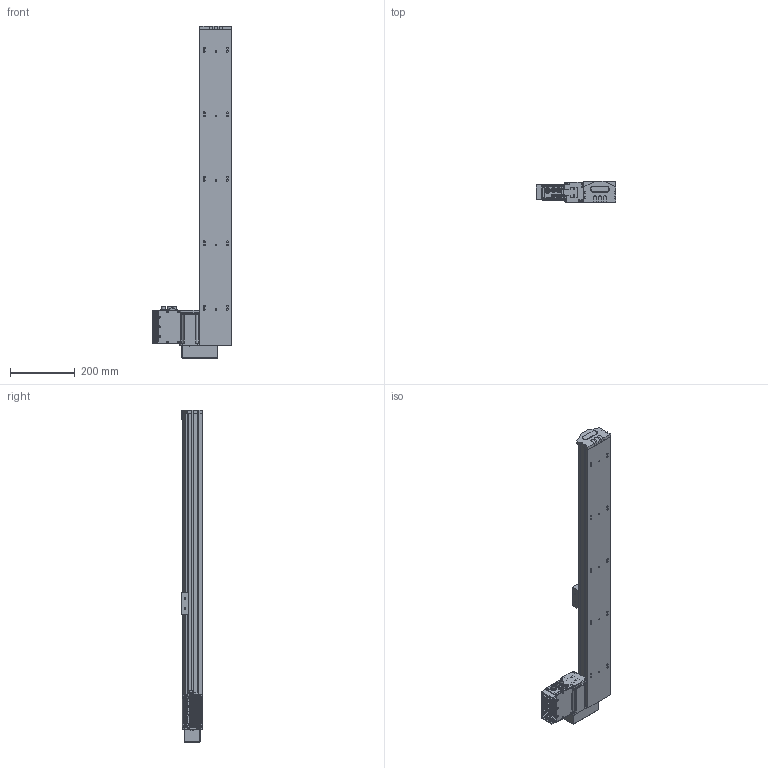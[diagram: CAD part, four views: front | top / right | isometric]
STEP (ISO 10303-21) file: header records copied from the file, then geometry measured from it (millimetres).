
FILE_DESCRIPTION (( 'STEP AP203' ), '1' );
FILE_NAME ('S10 TSN BL S800.STEP', '2012-09-03T09:26:42', ( 'Conseil Régional Haute-Normandie' ), ( 'Conseil Régional Haute-Normandie' ), 'SwSTEP 2.0', 'SolidWorks 2010', '' );
FILE_SCHEMA (( 'CONFIG_CONTROL_DESIGN' ));
Length unit declared in the file: millimetre
Products named in the file (25): Assem1_7; Couvercle_3; Moteur 60BLDC90A_3; Radiateur profil_X2_00E9_X0_ 100x25_3; Colonnette ronde_3; T_X2_00F4_X0_le Arri_X2_00E8_X0_re_5; renvoi LH_Default; piece_plastique remplie_Default; S10 TSN BL S800; T_X2_00F4_X0_le contre le moteur_5; BU41 Carte Alimentation P05_3; Colonnette_3; BU45 Carte d''axe A11_5; T_X2_00F4_X0_le fond_3; Connecteur rond D10 3cts_5; Connecteur rond D12 4cts_5; Sub D 9cts 90_X2_00B_X0__3; T_X2_00F4_X0_le lat_X2_00E9_X0_rale_5; Vis TF 3 torkx_1_1; palette tbn; axe987; embout_modifié; remplir_Default; Pièce2_Default; Vis TF 3 torkx
Assembly tree (55 placements, depth 3):
  S10 TSN BL S800
    Assem1_7
      T_X2_00F4_X0_le fond_3
      Connecteur rond D10 3cts_5  x2
      Connecteur rond D12 4cts_5
      Vis TF 3 torkx_1_1  x21
      Couvercle_3
      T_X2_00F4_X0_le contre le moteur_5
      Colonnette_3  x2
      Sub D 9cts 90_X2_00B_X0__3
      Colonnette ronde_3
      T_X2_00F4_X0_le lat_X2_00E9_X0_rale_5  x2
      BU41 Carte Alimentation P05_3
      T_X2_00F4_X0_le Arri_X2_00E8_X0_re_5
      BU45 Carte d''axe A11_5
      Moteur 60BLDC90A_3
      Radiateur profil_X2_00E9_X0_ 100x25_3
    Vis TF 3 torkx  x7
    piece_plastique remplie_Default
      remplir_Default  x3
      embout_modifié
      Pièce2_Default
    palette tbn
    axe987
    renvoi LH_Default
Bounding box: 248 x 66.75 x 1029.5 mm (x, y, z)
Volume: 5794548.8 mm3; surface area: 733576.5 mm2
Topology: 53 solids, 53 shells, 1969 faces, 5010 edges, 3266 vertices
Faces by surface type: plane 927, cylinder 879, cone 156, bspline 4, torus 3
Entity records: 38755 total; most frequent: CARTESIAN_POINT 6545, DIRECTION 6307, ORIENTED_EDGE 5728, EDGE_CURVE 2864, AXIS2_PLACEMENT_3D 2317, VERTEX_POINT 1878, VECTOR 1673, LINE 1673
